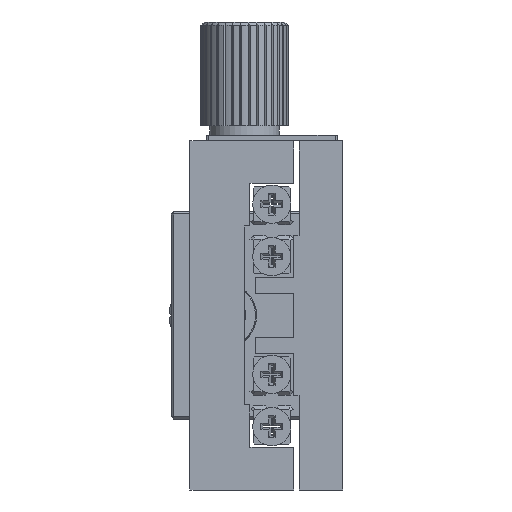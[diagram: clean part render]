
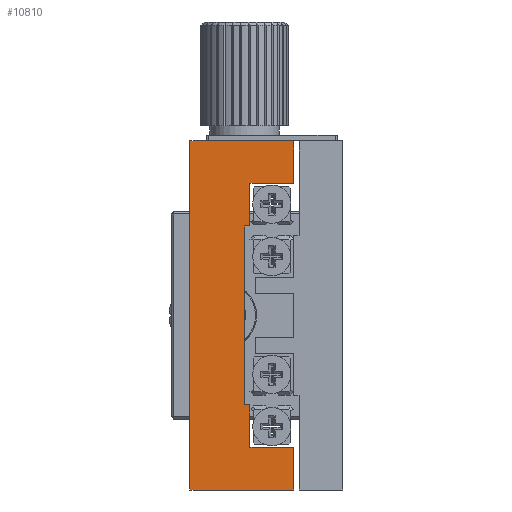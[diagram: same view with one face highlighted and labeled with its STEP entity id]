
A CAD part, left-side view. The second image highlights one B-rep face of the part: STEP entity #10810.
In plain terms, the highlighted planar face has unit normal (-1, 0, 0).
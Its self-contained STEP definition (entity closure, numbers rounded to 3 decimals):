
#184 = CARTESIAN_POINT ( 'NONE',  ( -23.584, 4.306, -8.2 ) ) ;
#186 = DIRECTION ( 'NONE',  ( 0., -1., 0. ) ) ;
#226 = CARTESIAN_POINT ( 'NONE',  ( -23.584, 4.056, 0. ) ) ;
#241 = DIRECTION ( 'NONE',  ( 0., 0., -1. ) ) ;
#245 = CARTESIAN_POINT ( 'NONE',  ( -23.584, 4.306, 8.2 ) ) ;
#246 = DIRECTION ( 'NONE',  ( 0., 1., 0. ) ) ;
#259 = CARTESIAN_POINT ( 'NONE',  ( -23.584, 4.306, 16. ) ) ;
#275 = DIRECTION ( 'NONE',  ( 0., 1., 0. ) ) ;
#320 = CARTESIAN_POINT ( 'NONE',  ( -23.584, 4.306, -16. ) ) ;
#329 = DIRECTION ( 'NONE',  ( 0., 1., 0. ) ) ;
#338 = CARTESIAN_POINT ( 'NONE',  ( -23.584, 4.306, -12.1 ) ) ;
#339 = DIRECTION ( 'NONE',  ( 0., -1., 0. ) ) ;
#358 = CARTESIAN_POINT ( 'NONE',  ( -23.584, -0.444, 0. ) ) ;
#359 = DIRECTION ( 'NONE',  ( 0., 0., -1. ) ) ;
#406 = CARTESIAN_POINT ( 'NONE',  ( -23.584, 3.556, 0. ) ) ;
#410 = CARTESIAN_POINT ( 'NONE',  ( -23.584, 3.556, 0. ) ) ;
#414 = DIRECTION ( 'NONE',  ( 0., 0., -1. ) ) ;
#417 = CARTESIAN_POINT ( 'NONE',  ( -23.584, 4.306, 12.1 ) ) ;
#422 = CARTESIAN_POINT ( 'NONE',  ( -23.584, -0.444, 0. ) ) ;
#423 = DIRECTION ( 'NONE',  ( 0., 0., -1. ) ) ;
#427 = DIRECTION ( 'NONE',  ( 0., 0., -1. ) ) ;
#428 = CARTESIAN_POINT ( 'NONE',  ( -23.584, 9.056, 0. ) ) ;
#429 = DIRECTION ( 'NONE',  ( 0., 1., 0. ) ) ;
#430 = DIRECTION ( 'NONE',  ( 0., 0., -1. ) ) ;
#887 = CARTESIAN_POINT ( 'NONE',  ( -23.584, 9.056, -16. ) ) ;
#892 = CARTESIAN_POINT ( 'NONE',  ( -23.584, 4.056, 8.2 ) ) ;
#913 = CARTESIAN_POINT ( 'NONE',  ( -23.584, 9.056, 16. ) ) ;
#1217 = CARTESIAN_POINT ( 'NONE',  ( -23.584, 4.306, 0. ) ) ;
#1221 = PLANE ( 'NONE',  #13348 ) ;
#1223 = DIRECTION ( 'NONE',  ( 1., 0., 0. ) ) ;
#1224 = DIRECTION ( 'NONE',  ( 0., 0., -1. ) ) ;
#2515 = EDGE_LOOP ( 'NONE', ( #10566, #10567, #10568, #10569, #10570, #10571, #10572, #10573, #10574, #10575, #10576, #10577 ) ) ;
#6587 = EDGE_CURVE ( 'NONE', #13488, #13507, #8593, .T. ) ;
#6624 = EDGE_CURVE ( 'NONE', #9950, #13488, #8603, .T. ) ;
#6628 = EDGE_CURVE ( 'NONE', #13500, #9950, #8623, .T. ) ;
#6647 = EDGE_CURVE ( 'NONE', #13502, #10045, #8632, .T. ) ;
#6690 = EDGE_CURVE ( 'NONE', #13580, #9939, #8672, .T. ) ;
#6701 = EDGE_CURVE ( 'NONE', #13578, #13582, #8682, .T. ) ;
#6716 = EDGE_CURVE ( 'NONE', #13582, #13580, #8694, .T. ) ;
#6756 = EDGE_CURVE ( 'NONE', #13507, #13578, #8726, .T. ) ;
#6763 = EDGE_CURVE ( 'NONE', #13573, #13500, #8730, .T. ) ;
#6765 = EDGE_CURVE ( 'NONE', #13502, #13522, #8736, .T. ) ;
#6766 = EDGE_CURVE ( 'NONE', #13522, #13573, #8735, .T. ) ;
#6767 = EDGE_CURVE ( 'NONE', #10045, #9939, #8712, .T. ) ;
#8593 = LINE ( 'NONE', #184, #8596 ) ;
#8596 = VECTOR ( 'NONE', #186, 1000. ) ;
#8603 = LINE ( 'NONE', #226, #8621 ) ;
#8621 = VECTOR ( 'NONE', #241, 1000. ) ;
#8623 = LINE ( 'NONE', #245, #8626 ) ;
#8626 = VECTOR ( 'NONE', #246, 1000. ) ;
#8632 = LINE ( 'NONE', #259, #8640 ) ;
#8640 = VECTOR ( 'NONE', #275, 1000. ) ;
#8672 = LINE ( 'NONE', #320, #8674 ) ;
#8674 = VECTOR ( 'NONE', #329, 1000. ) ;
#8682 = LINE ( 'NONE', #338, #8685 ) ;
#8685 = VECTOR ( 'NONE', #339, 1000. ) ;
#8694 = LINE ( 'NONE', #358, #8697 ) ;
#8697 = VECTOR ( 'NONE', #359, 1000. ) ;
#8712 = LINE ( 'NONE', #428, #8741 ) ;
#8726 = LINE ( 'NONE', #406, #8728 ) ;
#8728 = VECTOR ( 'NONE', #414, 1000. ) ;
#8730 = LINE ( 'NONE', #410, #8732 ) ;
#8732 = VECTOR ( 'NONE', #423, 1000. ) ;
#8735 = LINE ( 'NONE', #417, #8737 ) ;
#8736 = LINE ( 'NONE', #422, #8738 ) ;
#8737 = VECTOR ( 'NONE', #429, 1000. ) ;
#8738 = VECTOR ( 'NONE', #427, 1000. ) ;
#8741 = VECTOR ( 'NONE', #430, 1000. ) ;
#9939 = VERTEX_POINT ( 'NONE', #887 ) ;
#9950 = VERTEX_POINT ( 'NONE', #892 ) ;
#10045 = VERTEX_POINT ( 'NONE', #913 ) ;
#10566 = ORIENTED_EDGE ( 'NONE', *, *, #6756, .F. ) ;
#10567 = ORIENTED_EDGE ( 'NONE', *, *, #6587, .F. ) ;
#10568 = ORIENTED_EDGE ( 'NONE', *, *, #6624, .F. ) ;
#10569 = ORIENTED_EDGE ( 'NONE', *, *, #6628, .F. ) ;
#10570 = ORIENTED_EDGE ( 'NONE', *, *, #6763, .F. ) ;
#10571 = ORIENTED_EDGE ( 'NONE', *, *, #6766, .F. ) ;
#10572 = ORIENTED_EDGE ( 'NONE', *, *, #6765, .F. ) ;
#10573 = ORIENTED_EDGE ( 'NONE', *, *, #6647, .T. ) ;
#10574 = ORIENTED_EDGE ( 'NONE', *, *, #6767, .T. ) ;
#10575 = ORIENTED_EDGE ( 'NONE', *, *, #6690, .F. ) ;
#10576 = ORIENTED_EDGE ( 'NONE', *, *, #6716, .F. ) ;
#10577 = ORIENTED_EDGE ( 'NONE', *, *, #6701, .F. ) ;
#10810 = ADVANCED_FACE ( 'NONE', ( #11713 ), #1221, .F. ) ;
#11713 = FACE_OUTER_BOUND ( 'NONE', #2515, .T. ) ;
#13348 = AXIS2_PLACEMENT_3D ( 'NONE', #1217, #1223, #1224 ) ;
#13488 = VERTEX_POINT ( 'NONE', #15685 ) ;
#13500 = VERTEX_POINT ( 'NONE', #15697 ) ;
#13502 = VERTEX_POINT ( 'NONE', #15699 ) ;
#13507 = VERTEX_POINT ( 'NONE', #15704 ) ;
#13522 = VERTEX_POINT ( 'NONE', #15719 ) ;
#13573 = VERTEX_POINT ( 'NONE', #15770 ) ;
#13578 = VERTEX_POINT ( 'NONE', #15775 ) ;
#13580 = VERTEX_POINT ( 'NONE', #15777 ) ;
#13582 = VERTEX_POINT ( 'NONE', #15779 ) ;
#15685 = CARTESIAN_POINT ( 'NONE',  ( -23.584, 4.056, -8.2 ) ) ;
#15697 = CARTESIAN_POINT ( 'NONE',  ( -23.584, 3.556, 8.2 ) ) ;
#15699 = CARTESIAN_POINT ( 'NONE',  ( -23.584, -0.444, 16. ) ) ;
#15704 = CARTESIAN_POINT ( 'NONE',  ( -23.584, 3.556, -8.2 ) ) ;
#15719 = CARTESIAN_POINT ( 'NONE',  ( -23.584, -0.444, 12.1 ) ) ;
#15770 = CARTESIAN_POINT ( 'NONE',  ( -23.584, 3.556, 12.1 ) ) ;
#15775 = CARTESIAN_POINT ( 'NONE',  ( -23.584, 3.556, -12.1 ) ) ;
#15777 = CARTESIAN_POINT ( 'NONE',  ( -23.584, -0.444, -16. ) ) ;
#15779 = CARTESIAN_POINT ( 'NONE',  ( -23.584, -0.444, -12.1 ) ) ;
